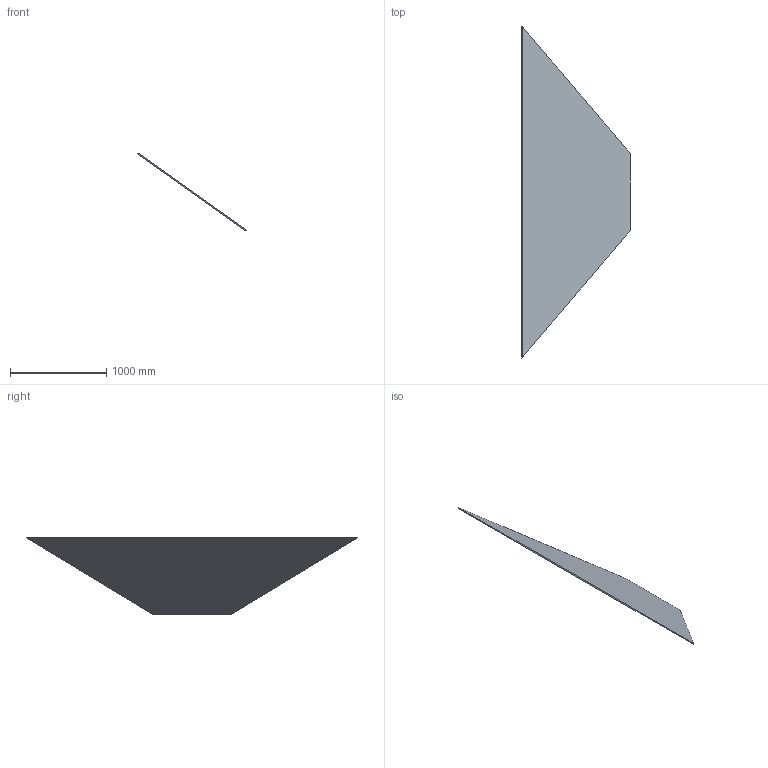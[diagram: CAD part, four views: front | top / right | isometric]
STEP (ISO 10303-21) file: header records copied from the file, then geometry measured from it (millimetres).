
FILE_DESCRIPTION(('Open CASCADE Model'),'2;1');
FILE_NAME('Open CASCADE Shape Model','2026-09-19T12:55:11',('Author'),( 'Open CASCADE'),'Open CASCADE STEP processor 7.9','Open CASCADE 7.9' ,'Unknown');
FILE_SCHEMA(('AUTOMOTIVE_DESIGN { 1 0 10303 214 1 1 1 1 }'));
Length unit declared in the file: millimetre
Products named in the file (1): Open CASCADE STEP translator 7.9 18
Bounding box: 1130.8 x 3450 x 808.15 mm (x, y, z)
Volume: 29334430.1 mm3; surface area: 5947654.8 mm2
Topology: 1 solids, 1 shells, 6 faces, 12 edges, 8 vertices
Faces by surface type: plane 6
Entity records: 322 total; most frequent: CARTESIAN_POINT 51, DIRECTION 50, LINE 36, VECTOR 36, ORIENTED_EDGE 24, PCURVE 24, DEFINITIONAL_REPRESENTATION 24, EDGE_CURVE 12
